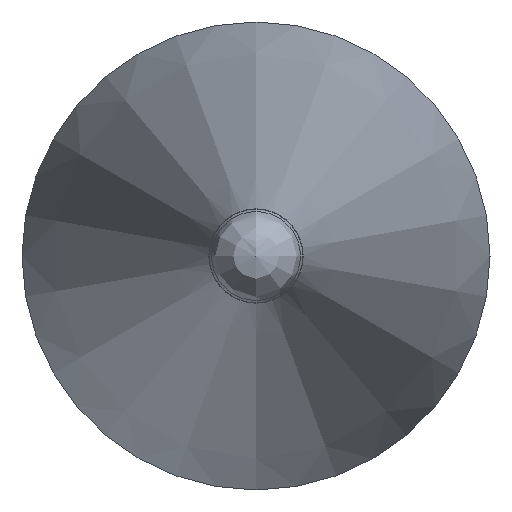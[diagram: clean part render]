
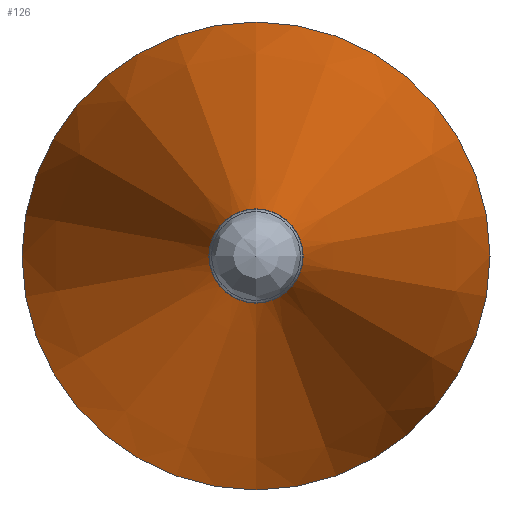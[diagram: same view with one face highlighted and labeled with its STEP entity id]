
A CAD part, left-side view. The second image highlights one B-rep face of the part: STEP entity #126.
In plain terms, the highlighted conical face has half-angle 12 degrees and reference radius 2 mm.
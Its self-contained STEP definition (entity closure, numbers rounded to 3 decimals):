
#94=CONICAL_SURFACE('',#206,2.,12.);
#112=FACE_BOUND('',#145,.T.);
#113=FACE_BOUND('',#146,.T.);
#126=ADVANCED_FACE('',(#112,#113),#94,.T.);
#145=EDGE_LOOP('',(#161));
#146=EDGE_LOOP('',(#162));
#161=ORIENTED_EDGE('',*,*,#181,.F.);
#162=ORIENTED_EDGE('',*,*,#182,.T.);
#173=VERTEX_POINT('',#292);
#174=VERTEX_POINT('',#295);
#181=EDGE_CURVE('',#173,#173,#189,.T.);
#182=EDGE_CURVE('',#174,#174,#190,.T.);
#189=CIRCLE('',#203,0.403);
#190=CIRCLE('',#205,2.);
#203=AXIS2_PLACEMENT_3D('',#291,#232,#233);
#205=AXIS2_PLACEMENT_3D('',#294,#236,#237);
#206=AXIS2_PLACEMENT_3D('',#296,#238,#239);
#232=DIRECTION('',(-1.,0.,0.));
#233=DIRECTION('',(0.,0.,1.));
#236=DIRECTION('',(-1.,0.,0.));
#237=DIRECTION('',(0.,0.,1.));
#238=DIRECTION('',(1.,0.,0.));
#239=DIRECTION('',(0.,0.,-1.));
#291=CARTESIAN_POINT('',(7897.912,6103.288,0.));
#292=CARTESIAN_POINT('',(7897.912,6103.288,0.403));
#294=CARTESIAN_POINT('',(7905.425,6103.288,0.));
#295=CARTESIAN_POINT('',(7905.425,6103.288,2.));
#296=CARTESIAN_POINT('',(7905.425,6103.288,0.));
